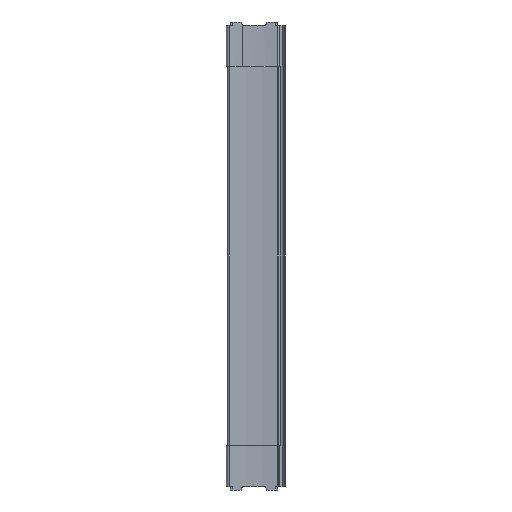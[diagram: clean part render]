
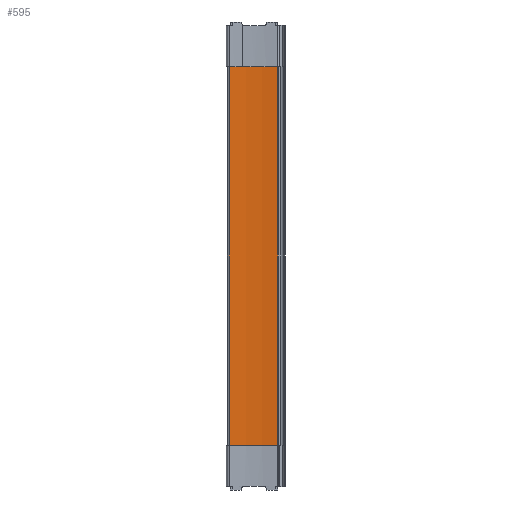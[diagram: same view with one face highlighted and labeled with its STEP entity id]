
A CAD part, left-side view. The second image highlights one B-rep face of the part: STEP entity #595.
In plain terms, the highlighted cylindrical face has radius 250 mm (diameter 500 mm), a partial arc.
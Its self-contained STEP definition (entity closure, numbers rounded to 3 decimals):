
#57 = CIRCLE ( 'NONE', #2424, 250. ) ;
#300 = EDGE_CURVE ( 'NONE', #2750, #2752, #1080, .T. ) ;
#318 = EDGE_CURVE ( 'NONE', #2554, #2461, #1057, .T. ) ;
#346 = EDGE_CURVE ( 'NONE', #2752, #2461, #1001, .T. ) ;
#595 = ADVANCED_FACE ( 'NONE', ( #2014 ), #2029, .F. ) ;
#830 = ORIENTED_EDGE ( 'NONE', *, *, #346, .F. ) ;
#835 = ORIENTED_EDGE ( 'NONE', *, *, #300, .F. ) ;
#1001 = CIRCLE ( 'NONE', #2207, 250. ) ;
#1047 = VECTOR ( 'NONE', #2673, 1000. ) ;
#1057 = LINE ( 'NONE', #2670, #1047 ) ;
#1079 = VECTOR ( 'NONE', #2638, 1000. ) ;
#1080 = LINE ( 'NONE', #2637, #1079 ) ;
#1188 = EDGE_LOOP ( 'NONE', ( #830, #835, #1730, #1729 ) ) ;
#1729 = ORIENTED_EDGE ( 'NONE', *, *, #318, .T. ) ;
#1730 = ORIENTED_EDGE ( 'NONE', *, *, #2169, .F. ) ;
#2014 = FACE_OUTER_BOUND ( 'NONE', #1188, .T. ) ;
#2029 = CYLINDRICAL_SURFACE ( 'NONE', #2304, 250. ) ;
#2169 = EDGE_CURVE ( 'NONE', #2554, #2750, #57, .T. ) ;
#2207 = AXIS2_PLACEMENT_3D ( 'NONE', #2714, #2879, #2880 ) ;
#2304 = AXIS2_PLACEMENT_3D ( 'NONE', #3484, #3483, #3482 ) ;
#2424 = AXIS2_PLACEMENT_3D ( 'NONE', #4039, #4047, #4048 ) ;
#2461 = VERTEX_POINT ( 'NONE', #4137 ) ;
#2554 = VERTEX_POINT ( 'NONE', #4221 ) ;
#2637 = CARTESIAN_POINT ( 'NONE',  ( -8.643, 8.331, 222. ) ) ;
#2638 = DIRECTION ( 'NONE',  ( 0., 0., -1. ) ) ;
#2670 = CARTESIAN_POINT ( 'NONE',  ( -5.747, 63.571, 222. ) ) ;
#2673 = DIRECTION ( 'NONE',  ( 0., 0., -1. ) ) ;
#2714 = CARTESIAN_POINT ( 'NONE',  ( -255.319, 48.963, -216. ) ) ;
#2750 = VERTEX_POINT ( 'NONE', #4325 ) ;
#2752 = VERTEX_POINT ( 'NONE', #4327 ) ;
#2879 = DIRECTION ( 'NONE',  ( 0., 0., 1. ) ) ;
#2880 = DIRECTION ( 'NONE',  ( -1., 0., 0. ) ) ;
#3482 = DIRECTION ( 'NONE',  ( -1., 0., 0. ) ) ;
#3483 = DIRECTION ( 'NONE',  ( 0., 0., -1. ) ) ;
#3484 = CARTESIAN_POINT ( 'NONE',  ( -255.319, 48.963, 222. ) ) ;
#4039 = CARTESIAN_POINT ( 'NONE',  ( -255.319, 48.963, 216. ) ) ;
#4047 = DIRECTION ( 'NONE',  ( 0., 0., -1. ) ) ;
#4048 = DIRECTION ( 'NONE',  ( 1., 0., 0. ) ) ;
#4137 = CARTESIAN_POINT ( 'NONE',  ( -5.747, 63.571, -216. ) ) ;
#4221 = CARTESIAN_POINT ( 'NONE',  ( -5.747, 63.571, 216. ) ) ;
#4325 = CARTESIAN_POINT ( 'NONE',  ( -8.643, 8.331, 216. ) ) ;
#4327 = CARTESIAN_POINT ( 'NONE',  ( -8.643, 8.331, -216. ) ) ;
